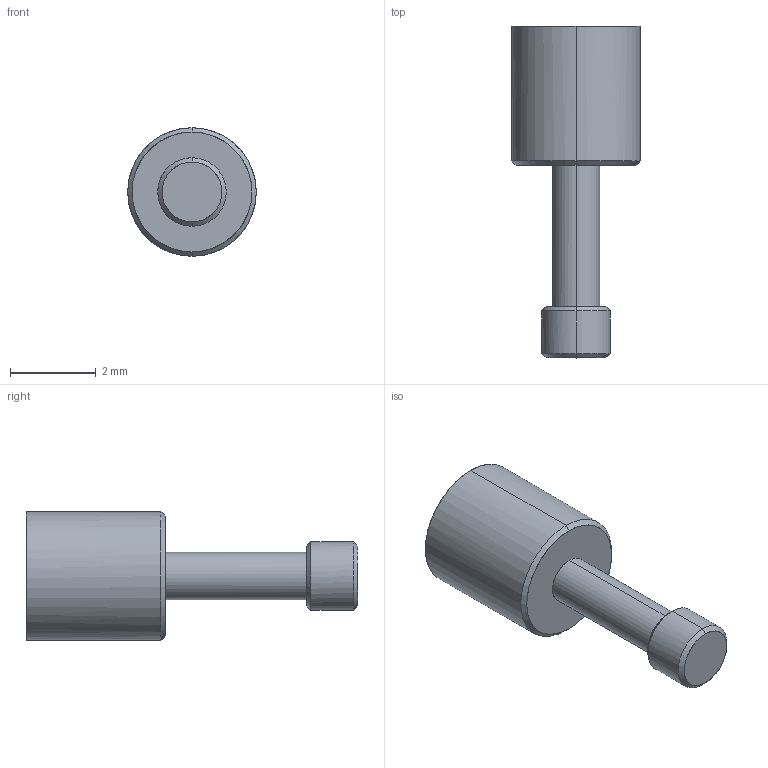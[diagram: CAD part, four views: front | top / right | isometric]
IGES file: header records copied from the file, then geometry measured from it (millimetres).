
Start section: START RECORD GO HERE.
Global section: file name: ia307520.igs; native system: DASSAULT SYSTEMES CATIA V5 R20 - www.3ds.com; preprocessor: CATIA Version 5 Release 20 ; author: Utente; organization: NB04-ASUS; date: 20201108.074349; units: millimetre
Bounding box: 3 x 7.75 x 3 mm (x, y, z)
Surface area: 66.3 mm2 (no closed solid volume)
Topology: 0 solids, 0 shells, 53 faces, 262 edges, 258 vertices
Faces by surface type: revolution 30, plane 23
